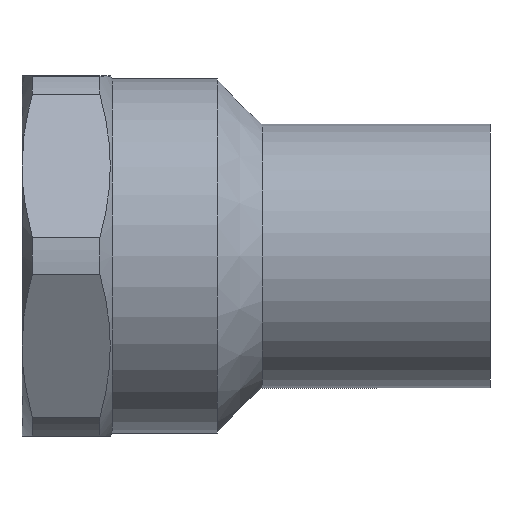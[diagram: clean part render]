
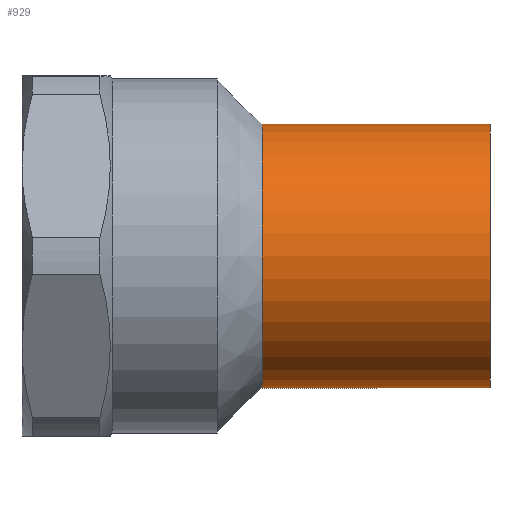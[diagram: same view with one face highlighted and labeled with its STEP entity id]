
A CAD part, front view. The second image highlights one B-rep face of the part: STEP entity #929.
In plain terms, the highlighted cylindrical face has radius 11 mm (diameter 22 mm), a full revolution.
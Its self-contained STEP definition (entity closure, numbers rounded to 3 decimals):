
#895=CARTESIAN_POINT('',(20.0,11.,0.0));
#896=VERTEX_POINT('',#895);
#897=CARTESIAN_POINT('',(20.0,0.,0.0));
#898=DIRECTION('',(1.0,0.0,0.0));
#899=DIRECTION('',(0.0,1.0,0.0));
#900=AXIS2_PLACEMENT_3D('',#897,#898,#899);
#901=CIRCLE('',#900,11.0);
#902=EDGE_CURVE('',#896,#896,#901,.T.);
#910=CARTESIAN_POINT('',(29.5,0.,0.0));
#911=DIRECTION('',(1.0,0.,0.0));
#912=DIRECTION('',(0.0,1.0,0.0));
#913=AXIS2_PLACEMENT_3D('',#910,#911,#912);
#914=CYLINDRICAL_SURFACE('',#913,11.0);
#915=CARTESIAN_POINT('',(39.0,11.,0.0));
#916=VERTEX_POINT('',#915);
#917=CARTESIAN_POINT('',(39.0,0.,0.0));
#918=DIRECTION('',(1.0,0.0,0.0));
#919=DIRECTION('',(0.0,1.0,0.0));
#920=AXIS2_PLACEMENT_3D('',#917,#918,#919);
#921=CIRCLE('',#920,11.);
#922=EDGE_CURVE('',#916,#916,#921,.T.);
#923=ORIENTED_EDGE('',*,*,#922,.F.);
#924=EDGE_LOOP('',(#923));
#925=FACE_OUTER_BOUND('',#924,.T.);
#926=ORIENTED_EDGE('',*,*,#902,.T.);
#927=EDGE_LOOP('',(#926));
#928=FACE_BOUND('',#927,.T.);
#929=ADVANCED_FACE('',(#925,#928),#914,.T.);
